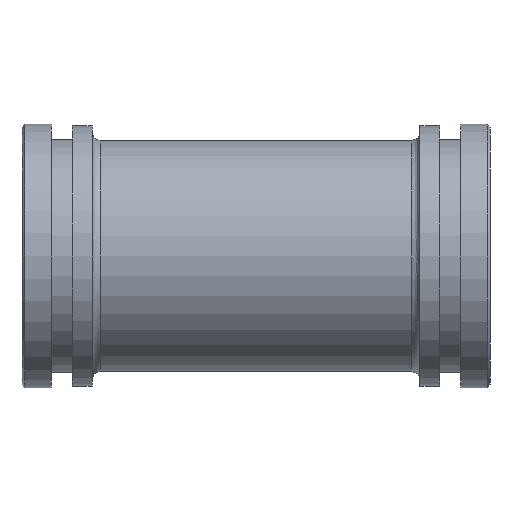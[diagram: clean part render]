
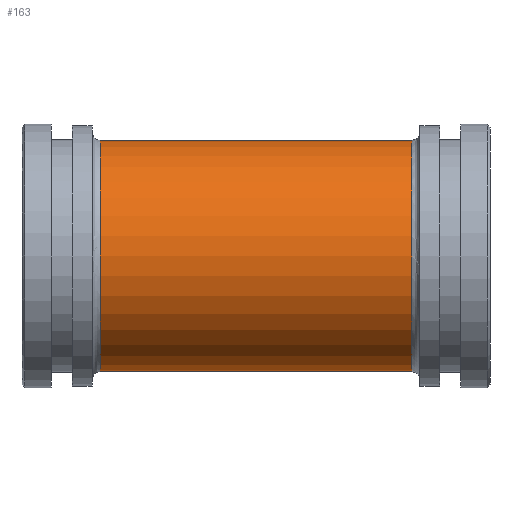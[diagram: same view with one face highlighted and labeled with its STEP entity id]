
A CAD part, front view. The second image highlights one B-rep face of the part: STEP entity #163.
In plain terms, the highlighted cylindrical face has radius 19.75 mm (diameter 39.5 mm), a full revolution.
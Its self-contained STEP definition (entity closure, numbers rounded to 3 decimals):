
#121=CARTESIAN_POINT('',(26.6,19.75,0.0));
#122=VERTEX_POINT('',#121);
#123=CARTESIAN_POINT('',(26.6,0.0,0.0));
#124=DIRECTION('',(1.0,0.0,0.0));
#125=DIRECTION('',(0.0,-1.0,0.0));
#126=AXIS2_PLACEMENT_3D('',#123,#124,#125);
#127=CIRCLE('',#126,19.75);
#128=EDGE_CURVE('',#122,#122,#127,.T.);
#144=CARTESIAN_POINT('',(0.0,0.0,0.0));
#145=DIRECTION('',(1.0,0.0,0.0));
#146=DIRECTION('',(0.0,1.0,0.0));
#147=AXIS2_PLACEMENT_3D('',#144,#145,#146);
#148=CYLINDRICAL_SURFACE('',#147,19.75);
#149=CARTESIAN_POINT('',(-26.6,19.75,0.));
#150=VERTEX_POINT('',#149);
#151=CARTESIAN_POINT('',(-26.6,0.0,0.0));
#152=DIRECTION('',(-1.0,0.0,0.0));
#153=DIRECTION('',(0.0,-1.0,0.0));
#154=AXIS2_PLACEMENT_3D('',#151,#152,#153);
#155=CIRCLE('',#154,19.75);
#156=EDGE_CURVE('',#150,#150,#155,.T.);
#157=ORIENTED_EDGE('',*,*,#156,.F.);
#158=EDGE_LOOP('',(#157));
#159=FACE_OUTER_BOUND('',#158,.T.);
#160=ORIENTED_EDGE('',*,*,#128,.F.);
#161=EDGE_LOOP('',(#160));
#162=FACE_BOUND('',#161,.T.);
#163=ADVANCED_FACE('',(#159,#162),#148,.T.);
